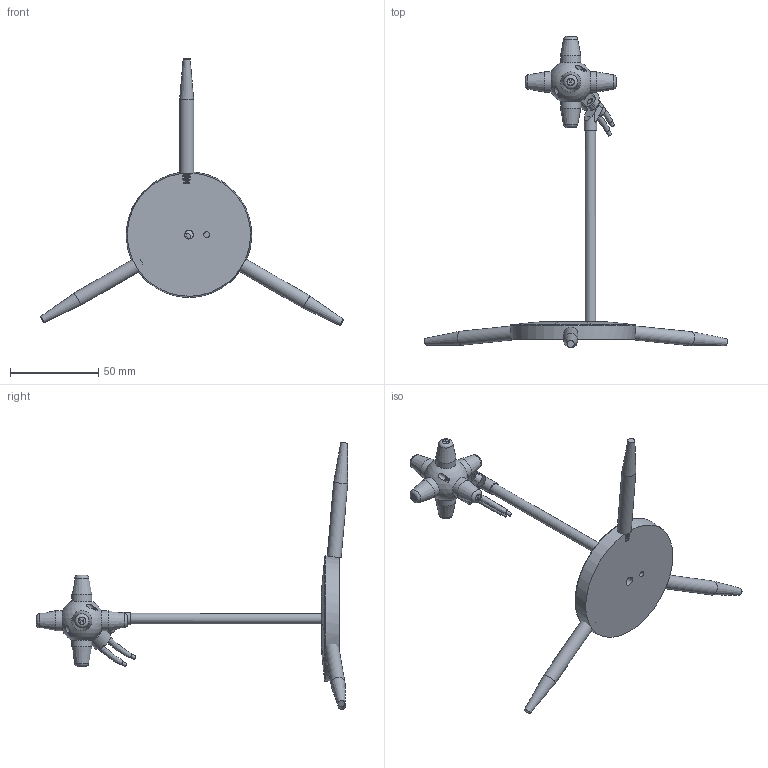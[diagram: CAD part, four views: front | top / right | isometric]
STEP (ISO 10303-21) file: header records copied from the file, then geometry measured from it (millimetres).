
FILE_DESCRIPTION(/* description */ ('Alibre Inc.'),/* implementation_level */ '2;1');
FILE_NAME(/* name */ 'export-9C450DFF-EB6E-4D4A-9DDE-C75306A131D1',/* time_stamp */ '2023-02-27T15:24:15+01:00',/* author */ (''),/* organization */ (''),/* preprocessor_version */ 'ST-DEVELOPER v17',/* originating_system */ 'Alibre',/* authorisation */ '');
FILE_SCHEMA (('AUTOMOTIVE_DESIGN'));
Length unit declared in the file: millimetre
Products named in the file (7): VITE_TESTA_CILINDRICA_PHILLIPS
Bounding box: 172.18 x 176.94 x 151.67 mm (x, y, z)
Volume: 64237.2 mm3; surface area: 24097.6 mm2
Topology: 8 solids, 8 shells, 318 faces, 764 edges, 493 vertices
Faces by surface type: plane 180, cylinder 83, bspline 22, cone 20, torus 12, sphere 1
Full cylindrical faces by diameter (mm): 2.1 x2, 2.9 x3, 3 x3, 3.242 x3, 4 x1, 4.1 x1, 4.2 x8, 4.917 x3, 4.978 x1, 5.2 x2, 6 x1, 7 x1, 8 x3, 11.5 x6
Entity records: 12226 total; most frequent: CARTESIAN_POINT 5949, ORIENTED_EDGE 1232, DIRECTION 1017, EDGE_CURVE 616, VERTEX_POINT 423, AXIS2_PLACEMENT_3D 416, EDGE_LOOP 367, FACE_BOUND 367
